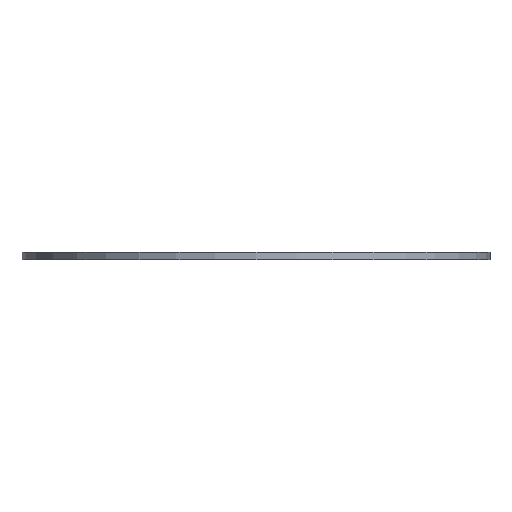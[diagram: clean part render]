
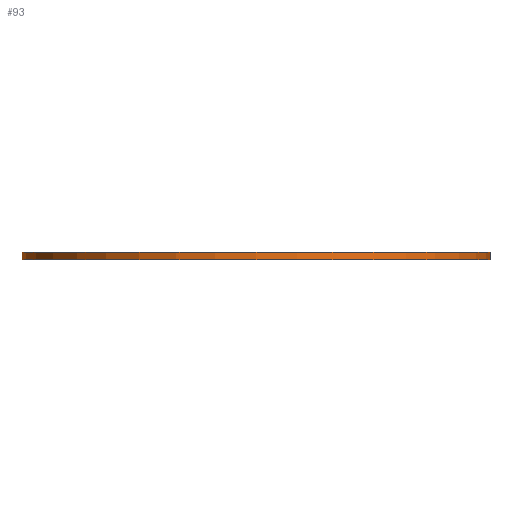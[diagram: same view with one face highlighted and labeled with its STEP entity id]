
A CAD part, front view. The second image highlights one B-rep face of the part: STEP entity #93.
In plain terms, the highlighted cylindrical face has radius 49.517 mm (diameter 99.035 mm), a partial arc.
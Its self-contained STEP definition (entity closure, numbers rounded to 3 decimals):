
#55 = EDGE_CURVE('',#56,#58,#60,.T.);
#56 = VERTEX_POINT('',#57);
#57 = CARTESIAN_POINT('',(-49.39,0.254,0.));
#58 = VERTEX_POINT('',#59);
#59 = CARTESIAN_POINT('',(-49.39,0.254,1.6)
  );
#60 = LINE('',#61,#62);
#61 = CARTESIAN_POINT('',(-49.39,0.254,0.));
#62 = VECTOR('',#63,1.);
#63 = DIRECTION('',(0.,0.,1.));
#66 = VERTEX_POINT('',#67);
#67 = CARTESIAN_POINT('',(49.644,0.254,1.6)
  );
#74 = EDGE_CURVE('',#75,#66,#77,.T.);
#75 = VERTEX_POINT('',#76);
#76 = CARTESIAN_POINT('',(49.644,0.254,0.));
#77 = LINE('',#78,#79);
#78 = CARTESIAN_POINT('',(49.644,0.254,0.));
#79 = VECTOR('',#80,1.);
#80 = DIRECTION('',(0.,0.,1.));
#93 = ADVANCED_FACE('',(#94),#112,.T.);
#94 = FACE_BOUND('',#95,.T.);
#95 = EDGE_LOOP('',(#96,#97,#104,#105));
#96 = ORIENTED_EDGE('',*,*,#74,.T.);
#97 = ORIENTED_EDGE('',*,*,#98,.T.);
#98 = EDGE_CURVE('',#66,#58,#99,.T.);
#99 = CIRCLE('',#100,49.517);
#100 = AXIS2_PLACEMENT_3D('',#101,#102,#103);
#101 = CARTESIAN_POINT('',(0.127,0.254,1.6)
  );
#102 = DIRECTION('',(-0.,0.,-1.));
#103 = DIRECTION('',(1.,0.,-0.));
#104 = ORIENTED_EDGE('',*,*,#55,.F.);
#105 = ORIENTED_EDGE('',*,*,#106,.F.);
#106 = EDGE_CURVE('',#75,#56,#107,.T.);
#107 = CIRCLE('',#108,49.517);
#108 = AXIS2_PLACEMENT_3D('',#109,#110,#111);
#109 = CARTESIAN_POINT('',(0.127,0.254,0.));
#110 = DIRECTION('',(-0.,0.,-1.));
#111 = DIRECTION('',(1.,0.,-0.));
#112 = CYLINDRICAL_SURFACE('',#113,49.517);
#113 = AXIS2_PLACEMENT_3D('',#114,#115,#116);
#114 = CARTESIAN_POINT('',(0.127,0.254,0.));
#115 = DIRECTION('',(-0.,0.,-1.));
#116 = DIRECTION('',(1.,0.,-0.));
